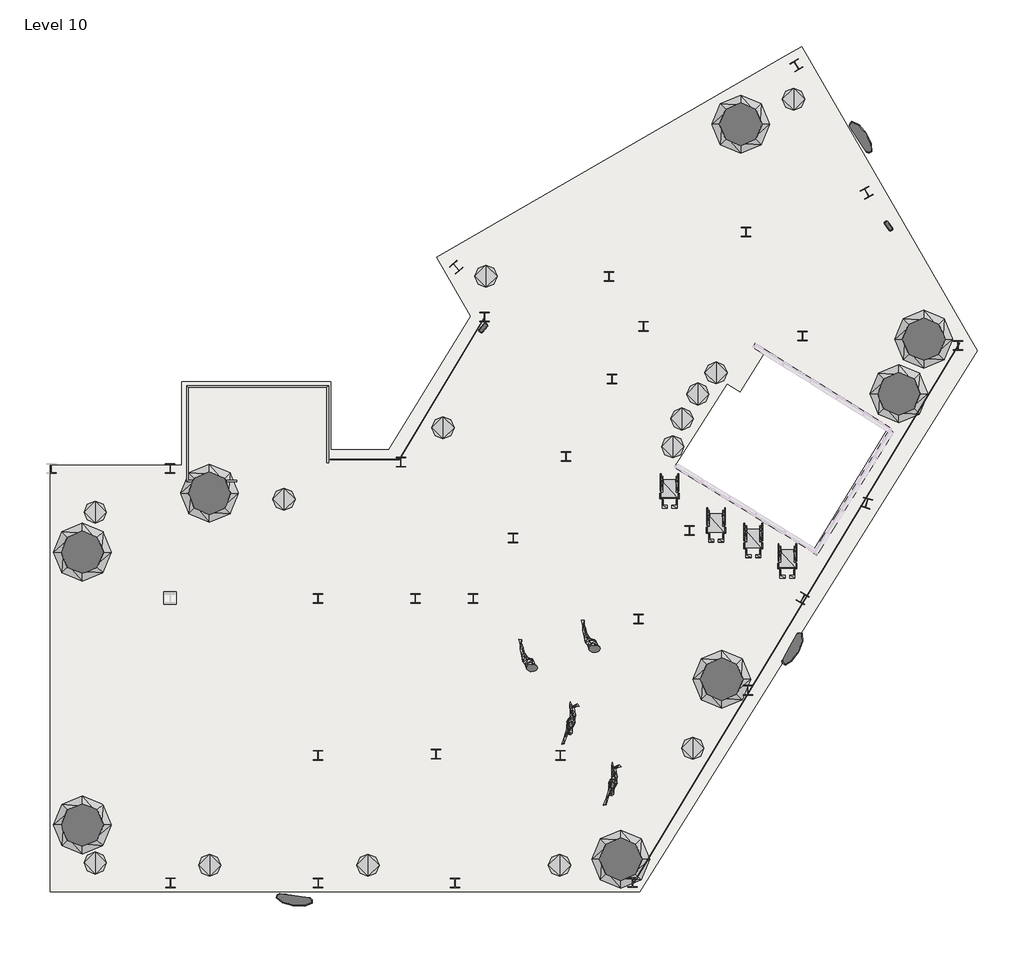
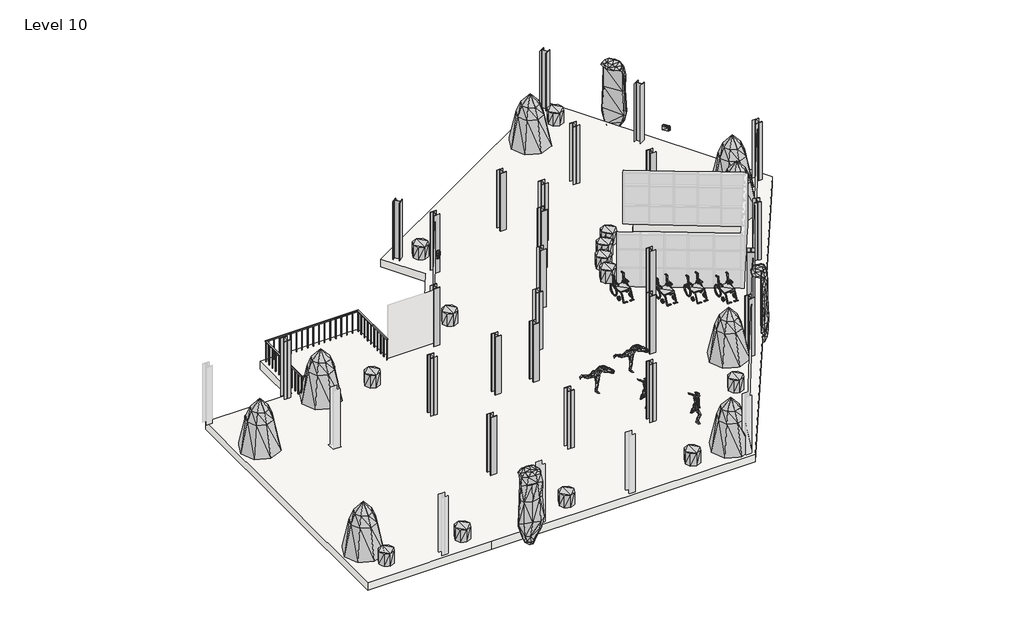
# One storey, part 3 of 3: 35 geographic elements, 25 columns, 1 railing, 1 slab.
"""IFC4 building model written with IfcOpenShell, lengths in millimetres."""

from ifc_helpers import new_model, si_unit, frame, origin, place, context, project, spatial, polyline, outline, extrude, faceted_brep, transform, mapped, element, save
from components import uc_universal_columns_column_uc305x305x97_d4764252, geographic_element_3335acbb, geographic_element_f46679e8, geographic_element_4bf2e114, geographic_element_8761a16f, geographic_element_7d3aa87a, geographic_element_ef1eaf45, enscape_assetdefinition_first_aid_kit_enscape_9b5aa35b, enscape_assetdefinition_wheelchair_001_enscape_12e7553c

model = new_model("IFC4")

# Units and contexts
model_context = context("Model", 3, world=origin())
ifc_project = project(units=[si_unit("LENGTHUNIT", "METRE", prefix="MILLI")], contexts=[model_context])

# Site, building, storey
site = spatial("IfcSite", under=ifc_project)
building = spatial("IfcBuilding", under=site)
storey = spatial("IfcBuildingStorey", under=building, Name="Level 10", Elevation=15000.0)

# Columns
placement = place(None, origin())
uc_universal_columns_column_uc305x305x97_shape = uc_universal_columns_column_uc305x305x97_d4764252(model_context)
element("IfcColumn", 1, ObjectType="UC-Universal Columns-Column : UC305x305x97", at=placement, inside=storey, context=model_context, shape_type="MappedRepresentation", body=[
    mapped(uc_universal_columns_column_uc305x305x97_shape, transform((14825.9261037, 2236.1980782, 0.0), x_axis=(1.0, 0.0, 0.0), y_axis=(0.0, 1.0, 0.0), z_axis=(0.0, 0.0, 1.0))),
])
element("IfcColumn", 2, ObjectType="UC-Universal Columns-Column : UC305x305x97", at=placement, inside=storey, context=model_context, shape_type="MappedRepresentation", body=[
    mapped(uc_universal_columns_column_uc305x305x97_shape, transform((16593.3727635, 5198.0548037, 0.0), x_axis=(0.8628109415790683, -0.5055267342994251, 0.0), y_axis=(0.5055267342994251, 0.8628109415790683, 0.0), z_axis=(0.0, 0.0, 1.0))),
])
element("IfcColumn", 3, ObjectType="UC-Universal Columns-Column : UC305x305x97", at=placement, inside=storey, context=model_context, shape_type="MappedRepresentation", body=[
    mapped(uc_universal_columns_column_uc305x305x97_shape, transform((18659.7446761, 8273.1842534, 0.0), x_axis=(-0.9563047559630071, 0.2923717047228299, 0.0), y_axis=(-0.2923717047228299, -0.9563047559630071, 0.0), z_axis=(0.0, 0.0, 1.0))),
])
element("IfcColumn", 4, ObjectType="UC-Universal Columns-Column : UC305x305x97", at=placement, inside=storey, context=model_context, shape_type="MappedRepresentation", body=[
    mapped(uc_universal_columns_column_uc305x305x97_shape, transform((21604.3807164, 13355.5172145, 0.0), x_axis=(1.0, 0.0, 0.0), y_axis=(0.0, 1.0, 0.0), z_axis=(0.0, 0.0, 1.0))),
])
element("IfcColumn", 5, ObjectType="UC-Universal Columns-Column : UC305x305x97", at=placement, inside=storey, context=model_context, shape_type="MappedRepresentation", body=[
    mapped(uc_universal_columns_column_uc305x305x97_shape, transform((18659.7446761, 18282.664733, 0.0), x_axis=(0.8746197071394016, 0.4848096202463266, 0.0), y_axis=(-0.4848096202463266, 0.8746197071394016, 0.0), z_axis=(0.0, 0.0, 1.0))),
])
element("IfcColumn", 6, ObjectType="UC-Universal Columns-Column : UC305x305x97", at=placement, inside=storey, context=model_context, shape_type="MappedRepresentation", body=[
    mapped(uc_universal_columns_column_uc305x305x97_shape, transform((16393.6530446, 22387.6807818, 0.0), x_axis=(0.8588498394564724, 0.5122274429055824, 0.0), y_axis=(-0.5122274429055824, 0.8588498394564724, 0.0), z_axis=(0.0, 0.0, 1.0))),
])
element("IfcColumn", 7, ObjectType="UC-Universal Columns-Column : UC305x305x97", at=placement, inside=storey, context=model_context, shape_type="MappedRepresentation", body=[
    mapped(uc_universal_columns_column_uc305x305x97_shape, transform((4102.1086824, 5198.0548037, 0.0), x_axis=(1.0, 0.0, 0.0), y_axis=(0.0, 1.0, 0.0), z_axis=(0.0, 0.0, 1.0))),
])
element("IfcColumn", 8, ObjectType="UC-Universal Columns-Column : UC305x305x97", at=placement, inside=storey, context=model_context, shape_type="MappedRepresentation", body=[
    mapped(uc_universal_columns_column_uc305x305x97_shape, transform((4772.9401602, 172.7329161, 0.0), x_axis=(1.0, 0.0, 0.0), y_axis=(0.0, 1.0, 0.0), z_axis=(0.0, 0.0, 1.0))),
])
element("IfcColumn", 9, ObjectType="UC-Universal Columns-Column : UC305x305x97", at=placement, inside=storey, context=model_context, shape_type="MappedRepresentation", body=[
    mapped(uc_universal_columns_column_uc305x305x97_shape, transform((960.5515361, 138.0977869, 0.0), x_axis=(1.0, 0.0, 0.0), y_axis=(0.0, 1.0, 0.0), z_axis=(0.0, 0.0, 1.0))),
])
element("IfcColumn", 10, ObjectType="UC-Universal Columns-Column : UC305x305x97", at=placement, inside=storey, context=model_context, shape_type="MappedRepresentation", body=[
    mapped(uc_universal_columns_column_uc305x305x97_shape, transform((960.5515361, 5198.0548037, 0.0), x_axis=(1.0, 0.0, 0.0), y_axis=(0.0, 1.0, 0.0), z_axis=(0.0, 0.0, 1.0))),
])
element("IfcColumn", 11, ObjectType="UC-Universal Columns-Column : UC305x305x97", at=placement, inside=storey, context=model_context, shape_type="MappedRepresentation", body=[
    mapped(uc_universal_columns_column_uc305x305x97_shape, transform((5969.450925, 5198.0548037, 0.0), x_axis=(1.0, 0.0, 0.0), y_axis=(0.0, 1.0, 0.0), z_axis=(0.0, 0.0, 1.0))),
])
element("IfcColumn", 12, ObjectType="UC-Universal Columns-Column : UC305x305x97", at=placement, inside=storey, context=model_context, shape_type="MappedRepresentation", body=[
    mapped(uc_universal_columns_column_uc305x305x97_shape, transform((8777.8287843, 138.0977869, 0.0), x_axis=(1.0, 0.0, 0.0), y_axis=(0.0, 1.0, 0.0), z_axis=(0.0, 0.0, 1.0))),
])
element("IfcColumn", 13, ObjectType="UC-Universal Columns-Column : UC305x305x97", at=placement, inside=storey, context=model_context, shape_type="MappedRepresentation", body=[
    mapped(uc_universal_columns_column_uc305x305x97_shape, transform((11297.5973714, 4527.5215482, 0.0), x_axis=(1.0, 0.0, 0.0), y_axis=(0.0, 1.0, 0.0), z_axis=(0.0, 0.0, 1.0))),
])
element("IfcColumn", 14, ObjectType="UC-Universal Columns-Column : UC305x305x97", at=placement, inside=storey, context=model_context, shape_type="MappedRepresentation", body=[
    mapped(uc_universal_columns_column_uc305x305x97_shape, transform((7257.5922909, 7151.1315241, 0.0), x_axis=(1.0, 0.0, 0.0), y_axis=(0.0, 1.0, 0.0), z_axis=(0.0, 0.0, 1.0))),
])
element("IfcColumn", 15, ObjectType="UC-Universal Columns-Column : UC305x305x97", at=placement, inside=storey, context=model_context, shape_type="MappedRepresentation", body=[
    mapped(uc_universal_columns_column_uc305x305x97_shape, transform((8965.6235037, 9781.2689457, 0.0), x_axis=(1.0, 0.0, 0.0), y_axis=(0.0, 1.0, 0.0), z_axis=(0.0, 0.0, 1.0))),
])
element("IfcColumn", 16, ObjectType="UC-Universal Columns-Column : UC305x305x97", at=placement, inside=storey, context=model_context, shape_type="MappedRepresentation", body=[
    mapped(uc_universal_columns_column_uc305x305x97_shape, transform((12948.9914586, 7387.8200105, 0.0), x_axis=(1.0, 0.0, 0.0), y_axis=(0.0, 1.0, 0.0), z_axis=(0.0, 0.0, 1.0))),
])
element("IfcColumn", 17, ObjectType="UC-Universal Columns-Column : UC305x305x97", at=placement, inside=storey, context=model_context, shape_type="MappedRepresentation", body=[
    mapped(uc_universal_columns_column_uc305x305x97_shape, transform((10445.2752584, 12279.6486862, 0.0), x_axis=(1.0, 0.0, 0.0), y_axis=(0.0, 1.0, 0.0), z_axis=(0.0, 0.0, 1.0))),
])
element("IfcColumn", 18, ObjectType="UC-Universal Columns-Column : UC305x305x97", at=placement, inside=storey, context=model_context, shape_type="MappedRepresentation", body=[
    mapped(uc_universal_columns_column_uc305x305x97_shape, transform((16593.3727635, 13664.0127827, 0.0), x_axis=(1.0, 0.0, 0.0), y_axis=(0.0, 1.0, 0.0), z_axis=(0.0, 0.0, 1.0))),
])
element("IfcColumn", 19, ObjectType="UC-Universal Columns-Column : UC305x305x97", at=placement, inside=storey, context=model_context, shape_type="MappedRepresentation", body=[
    mapped(uc_universal_columns_column_uc305x305x97_shape, transform((11463.6077386, 13974.4385392, 0.0), x_axis=(1.0, 0.0, 0.0), y_axis=(0.0, 1.0, 0.0), z_axis=(0.0, 0.0, 1.0))),
])
element("IfcColumn", 20, ObjectType="UC-Universal Columns-Column : UC305x305x97", at=placement, inside=storey, context=model_context, shape_type="MappedRepresentation", body=[
    mapped(uc_universal_columns_column_uc305x305x97_shape, transform((14771.6273167, 17019.3388217, 0.0), x_axis=(1.0, 0.0, 0.0), y_axis=(0.0, 1.0, 0.0), z_axis=(0.0, 0.0, 1.0))),
])
element("IfcColumn", 21, ObjectType="UC-Universal Columns-Column : UC305x305x97", at=placement, inside=storey, context=model_context, shape_type="MappedRepresentation", body=[
    mapped(uc_universal_columns_column_uc305x305x97_shape, transform((10348.7917074, 15582.272419, 0.0), x_axis=(1.0, 0.0, 0.0), y_axis=(0.0, 1.0, 0.0), z_axis=(0.0, 0.0, 1.0))),
])
element("IfcColumn", 22, ObjectType="UC-Universal Columns-Column : UC305x305x97", at=placement, inside=storey, context=model_context, shape_type="MappedRepresentation", body=[
    mapped(uc_universal_columns_column_uc305x305x97_shape, transform((6337.5621324, 14278.944924, 0.0), x_axis=(1.0, 0.0, 0.0), y_axis=(0.0, 1.0, 0.0), z_axis=(0.0, 0.0, 1.0))),
])
element("IfcColumn", 23, ObjectType="UC-Universal Columns-Column : UC305x305x97", at=placement, inside=storey, context=model_context, shape_type="MappedRepresentation", body=[
    mapped(uc_universal_columns_column_uc305x305x97_shape, transform((5421.8201957, 15880.0564851, 0.0), x_axis=(0.7605099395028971, 0.6493262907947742, 0.0), y_axis=(-0.6493262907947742, 0.7605099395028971, 0.0), z_axis=(0.0, 0.0, 1.0))),
])
element("IfcColumn", 24, ObjectType="UC-Universal Columns-Column : UC305x305x97", at=placement, inside=storey, context=model_context, shape_type="MappedRepresentation", body=[
    mapped(uc_universal_columns_column_uc305x305x97_shape, transform((3633.3125017, 9590.0288254, 0.0), x_axis=(1.0, 0.0, 0.0), y_axis=(0.0, 1.0, 0.0), z_axis=(0.0, 0.0, 1.0))),
])
element("IfcColumn", 25, ObjectType="UC-Universal Columns-Column : UC305x305x97", at=placement, inside=storey, context=model_context, shape_type="MappedRepresentation", body=[
    mapped(uc_universal_columns_column_uc305x305x97_shape, transform((-3804.3842071, 9390.0288254, 0.0), x_axis=(1.0, 0.0, 0.0), y_axis=(0.0, 1.0, 0.0), z_axis=(0.0, 0.0, 1.0))),
])

# Geographic elements
geographic_element_shape = geographic_element_3335acbb(model_context)
element("IfcGeographicElement", 26, ObjectType="Enscape AssetDefinition - Bush 015 English Laurel : Enscape AssetDefinition - Bush 015 English Laurel", at=placement, inside=storey, context=model_context, shape_type="MappedRepresentation", body=[
    mapped(geographic_element_shape, transform((-6221.6874983, 7980.8556161, 15000.0), x_axis=(1.0, 0.0, 0.0), y_axis=(0.0, 1.0, 0.0), z_axis=(0.0, 0.0, 1.0))),
])
element("IfcGeographicElement", 27, ObjectType="Enscape AssetDefinition - Bush 015 English Laurel : Enscape AssetDefinition - Bush 015 English Laurel", at=placement, inside=storey, context=model_context, shape_type="MappedRepresentation", body=[
    mapped(geographic_element_shape, transform((-6221.6874983, -3334.9711746, 15000.0), x_axis=(1.0, 0.0, 0.0), y_axis=(0.0, 1.0, 0.0), z_axis=(0.0, 0.0, 1.0))),
])
element("IfcGeographicElement", 28, ObjectType="Enscape AssetDefinition - Bush 015 English Laurel : Enscape AssetDefinition - Bush 015 English Laurel", at=placement, inside=storey, context=model_context, shape_type="MappedRepresentation", body=[
    mapped(geographic_element_shape, transform((-2531.9484639, -3409.9711746, 15000.0), x_axis=(1.0, 0.0, 0.0), y_axis=(0.0, 1.0, 0.0), z_axis=(0.0, 0.0, 1.0))),
])
element("IfcGeographicElement", 29, ObjectType="Enscape AssetDefinition - Bush 015 English Laurel : Enscape AssetDefinition - Bush 015 English Laurel", at=placement, inside=storey, context=model_context, shape_type="MappedRepresentation", body=[
    mapped(geographic_element_shape, transform((2575.5515361, -3409.9711746, 15000.0), x_axis=(1.0, 0.0, 0.0), y_axis=(0.0, 1.0, 0.0), z_axis=(0.0, 0.0, 1.0))),
])
element("IfcGeographicElement", 30, ObjectType="Enscape AssetDefinition - Bush 015 English Laurel : Enscape AssetDefinition - Bush 015 English Laurel", at=placement, inside=storey, context=model_context, shape_type="MappedRepresentation", body=[
    mapped(geographic_element_shape, transform((8753.3125017, -3409.9711746, 15000.0), x_axis=(1.0, 0.0, 0.0), y_axis=(0.0, 1.0, 0.0), z_axis=(0.0, 0.0, 1.0))),
])
element("IfcGeographicElement", 31, ObjectType="Enscape AssetDefinition - Bush 015 English Laurel : Enscape AssetDefinition - Bush 015 English Laurel", at=placement, inside=storey, context=model_context, shape_type="MappedRepresentation", body=[
    mapped(geographic_element_shape, transform((13052.898275, 364.0884823, 15000.0), x_axis=(1.0, 0.0, 0.0), y_axis=(0.0, 1.0, 0.0), z_axis=(0.0, 0.0, 1.0))),
])
element("IfcGeographicElement", 32, ObjectType="Enscape AssetDefinition - Bush 015 English Laurel : Enscape AssetDefinition - Bush 015 English Laurel", at=placement, inside=storey, context=model_context, shape_type="MappedRepresentation", body=[
    mapped(geographic_element_shape, transform((-136.3598666, 8395.8274352, 15000.0), x_axis=(1.0, 0.0, 0.0), y_axis=(0.0, 1.0, 0.0), z_axis=(0.0, 0.0, 1.0))),
])
element("IfcGeographicElement", 33, ObjectType="Enscape AssetDefinition - Bush 015 English Laurel : Enscape AssetDefinition - Bush 015 English Laurel", at=placement, inside=storey, context=model_context, shape_type="MappedRepresentation", body=[
    mapped(geographic_element_shape, transform((4993.3125017, 10702.8171083, 15000.0), x_axis=(1.0, 0.0, 0.0), y_axis=(0.0, 1.0, 0.0), z_axis=(0.0, 0.0, 1.0))),
])
element("IfcGeographicElement", 34, ObjectType="Enscape AssetDefinition - Bush 015 English Laurel : Enscape AssetDefinition - Bush 015 English Laurel", at=placement, inside=storey, context=model_context, shape_type="MappedRepresentation", body=[
    mapped(geographic_element_shape, transform((6378.4832243, 15588.0675137, 15000.0), x_axis=(1.0, 0.0, 0.0), y_axis=(0.0, 1.0, 0.0), z_axis=(0.0, 0.0, 1.0))),
])
element("IfcGeographicElement", 35, ObjectType="Enscape AssetDefinition - Bush 015 English Laurel : Enscape AssetDefinition - Bush 015 English Laurel", at=placement, inside=storey, context=model_context, shape_type="MappedRepresentation", body=[
    mapped(geographic_element_shape, transform((16301.9425222, 21300.131823, 15000.0), x_axis=(1.0, 0.0, 0.0), y_axis=(0.0, 1.0, 0.0), z_axis=(0.0, 0.0, 1.0))),
])
element("IfcGeographicElement", 36, ObjectType="Enscape AssetDefinition - Bush 015 English Laurel : Enscape AssetDefinition - Bush 015 English Laurel", at=placement, inside=storey, context=model_context, shape_type="MappedRepresentation", body=[
    mapped(geographic_element_shape, transform((12401.9425222, 10090.0288254, 15000.0), x_axis=(1.0, 0.0, 0.0), y_axis=(0.0, 1.0, 0.0), z_axis=(0.0, 0.0, 1.0))),
])
element("IfcGeographicElement", 37, ObjectType="Enscape AssetDefinition - Bush 015 English Laurel : Enscape AssetDefinition - Bush 015 English Laurel", at=placement, inside=storey, context=model_context, shape_type="MappedRepresentation", body=[
    mapped(geographic_element_shape, transform((12701.9425222, 10987.7410959, 15000.0), x_axis=(1.0, 0.0, 0.0), y_axis=(0.0, 1.0, 0.0), z_axis=(0.0, 0.0, 1.0))),
])
element("IfcGeographicElement", 38, ObjectType="Enscape AssetDefinition - Bush 015 English Laurel : Enscape AssetDefinition - Bush 015 English Laurel", at=placement, inside=storey, context=model_context, shape_type="MappedRepresentation", body=[
    mapped(geographic_element_shape, transform((13214.914214, 11790.0288254, 15000.0), x_axis=(1.0, 0.0, 0.0), y_axis=(0.0, 1.0, 0.0), z_axis=(0.0, 0.0, 1.0))),
])
element("IfcGeographicElement", 39, ObjectType="Enscape AssetDefinition - Bush 015 English Laurel : Enscape AssetDefinition - Bush 015 English Laurel", at=placement, inside=storey, context=model_context, shape_type="MappedRepresentation", body=[
    mapped(geographic_element_shape, transform((13801.9425222, 12472.2515754, 15000.0), x_axis=(1.0, 0.0, 0.0), y_axis=(0.0, 1.0, 0.0), z_axis=(0.0, 0.0, 1.0))),
])
geographic_element_2_shape = geographic_element_f46679e8(model_context)
element("IfcGeographicElement", 40, ObjectType="Enscape AssetDefinition - Creeper Plant 021 Bower Vine : Enscape AssetDefinition - Creeper Plant 021 Bower Vine", at=placement, inside=storey, context=model_context, shape_type="MappedRepresentation", body=[
    mapped(geographic_element_2_shape, transform((16174.5718831, 3629.7419882, 18000.0), x_axis=(0.4831824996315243, 0.8755196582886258, 0.0), y_axis=(-0.8755196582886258, 0.4831824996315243, 0.0), z_axis=(0.0, 0.0, 1.0))),
])
element("IfcGeographicElement", 41, ObjectType="Enscape AssetDefinition - Creeper Plant 021 Bower Vine : Enscape AssetDefinition - Creeper Plant 021 Bower Vine", at=placement, inside=storey, context=model_context, shape_type="MappedRepresentation", body=[
    mapped(geographic_element_2_shape, transform((18380.6080366, 20011.676312, 18000.0), x_axis=(-0.5414431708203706, 0.8407373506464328, 0.0), y_axis=(-0.8407373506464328, -0.5414431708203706, 0.0), z_axis=(0.0, 0.0, 1.0))),
])
geographic_element_3_shape = geographic_element_4bf2e114(model_context)
element("IfcGeographicElement", 42, ObjectType="Enscape AssetDefinition - Creeper Plant 021 Bower Vine : Enscape AssetDefinition - Creeper Plant 021 Bower Vine", at=placement, inside=storey, context=model_context, shape_type="MappedRepresentation", body=[
    mapped(geographic_element_3_shape, transform((216.2118293, -4397.4394823, 18000.0), x_axis=(-0.990339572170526, 0.13866337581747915, 0.0), y_axis=(-0.13866337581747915, -0.990339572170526, 0.0), z_axis=(0.0, 0.0, 1.0))),
])
geographic_element_4_shape = geographic_element_8761a16f(model_context)
element("IfcGeographicElement", 43, ObjectType="Enscape AssetDefinition - Juliette 002 Working Out : Enscape AssetDefinition - Juliette 002 Working Out", at=placement, inside=storey, context=model_context, shape_type="MappedRepresentation", body=[
    mapped(geographic_element_4_shape, transform((10501.9425222, -734.4451963, 15000.0), x_axis=(1.0, 0.0, 0.0), y_axis=(0.0, 1.0, 0.0), z_axis=(0.0, 0.0, 1.0))),
])
element("IfcGeographicElement", 44, ObjectType="Enscape AssetDefinition - Juliette 002 Working Out : Enscape AssetDefinition - Juliette 002 Working Out", at=placement, inside=storey, context=model_context, shape_type="MappedRepresentation", body=[
    mapped(geographic_element_4_shape, transform((9153.3125017, 1230.2323888, 15000.0), x_axis=(1.0, 0.0, 0.0), y_axis=(0.0, 1.0, 0.0), z_axis=(0.0, 0.0, 1.0))),
])
geographic_element_5_shape = geographic_element_7d3aa87a(model_context)
element("IfcGeographicElement", 45, ObjectType="Enscape AssetDefinition - Terrell 002 Jumping : Enscape AssetDefinition - Terrell 002 Jumping", at=placement, inside=storey, context=model_context, shape_type="MappedRepresentation", body=[
    mapped(geographic_element_5_shape, transform((9753.3125017, 3605.5548037, 15000.0), x_axis=(1.0, 0.0, 0.0), y_axis=(0.0, 1.0, 0.0), z_axis=(0.0, 0.0, 1.0))),
])
element("IfcGeographicElement", 46, ObjectType="Enscape AssetDefinition - Terrell 002 Jumping : Enscape AssetDefinition - Terrell 002 Jumping", at=placement, inside=storey, context=model_context, shape_type="MappedRepresentation", body=[
    mapped(geographic_element_5_shape, transform((7733.3125017, 2990.0288254, 15000.0), x_axis=(1.0, 0.0, 0.0), y_axis=(0.0, 1.0, 0.0), z_axis=(0.0, 0.0, 1.0))),
])
geographic_element_6_shape = geographic_element_ef1eaf45(model_context)
element("IfcGeographicElement", 47, ObjectType="Enscape AssetDefinition - Evergreen Tree 018 English Laurel : Enscape AssetDefinition - Evergreen Tree 018 English Laurel", at=placement, inside=storey, context=model_context, shape_type="MappedRepresentation", body=[
    mapped(geographic_element_6_shape, transform((20503.6990249, 13559.7043394, 15000.0), x_axis=(1.0, 0.0, 0.0), y_axis=(0.0, 1.0, 0.0), z_axis=(0.0, 0.0, 1.0))),
])
element("IfcGeographicElement", 48, ObjectType="Enscape AssetDefinition - Evergreen Tree 018 English Laurel : Enscape AssetDefinition - Evergreen Tree 018 English Laurel", at=placement, inside=storey, context=model_context, shape_type="MappedRepresentation", body=[
    mapped(geographic_element_6_shape, transform((19703.6990249, 11801.4322483, 15000.0), x_axis=(1.0, 0.0, 0.0), y_axis=(0.0, 1.0, 0.0), z_axis=(0.0, 0.0, 1.0))),
])
element("IfcGeographicElement", 49, ObjectType="Enscape AssetDefinition - Evergreen Tree 018 English Laurel : Enscape AssetDefinition - Evergreen Tree 018 English Laurel", at=placement, inside=storey, context=model_context, shape_type="MappedRepresentation", body=[
    mapped(geographic_element_6_shape, transform((13991.6879512, 2590.0288254, 15000.0), x_axis=(1.0, 0.0, 0.0), y_axis=(0.0, 1.0, 0.0), z_axis=(0.0, 0.0, 1.0))),
])
element("IfcGeographicElement", 50, ObjectType="Enscape AssetDefinition - Evergreen Tree 018 English Laurel : Enscape AssetDefinition - Evergreen Tree 018 English Laurel", at=placement, inside=storey, context=model_context, shape_type="MappedRepresentation", body=[
    mapped(geographic_element_6_shape, transform((14601.9425222, 20490.0288254, 15000.0), x_axis=(1.0, 0.0, 0.0), y_axis=(0.0, 1.0, 0.0), z_axis=(0.0, 0.0, 1.0))),
])
element("IfcGeographicElement", 51, ObjectType="Enscape AssetDefinition - Evergreen Tree 018 English Laurel : Enscape AssetDefinition - Evergreen Tree 018 English Laurel", at=placement, inside=storey, context=model_context, shape_type="MappedRepresentation", body=[
    mapped(geographic_element_6_shape, transform((10734.4701637, -3215.6119437, 15000.0), x_axis=(1.0, 0.0, 0.0), y_axis=(0.0, 1.0, 0.0), z_axis=(0.0, 0.0, 1.0))),
])
element("IfcGeographicElement", 52, ObjectType="Enscape AssetDefinition - Evergreen Tree 018 English Laurel : Enscape AssetDefinition - Evergreen Tree 018 English Laurel", at=placement, inside=storey, context=model_context, shape_type="MappedRepresentation", body=[
    mapped(geographic_element_6_shape, transform((-6631.9484639, -2109.9711746, 15000.0), x_axis=(1.0, 0.0, 0.0), y_axis=(0.0, 1.0, 0.0), z_axis=(0.0, 0.0, 1.0))),
])
element("IfcGeographicElement", 53, ObjectType="Enscape AssetDefinition - Evergreen Tree 018 English Laurel : Enscape AssetDefinition - Evergreen Tree 018 English Laurel", at=placement, inside=storey, context=model_context, shape_type="MappedRepresentation", body=[
    mapped(geographic_element_6_shape, transform((-6631.9484639, 6690.0288254, 15000.0), x_axis=(1.0, 0.0, 0.0), y_axis=(0.0, 1.0, 0.0), z_axis=(0.0, 0.0, 1.0))),
])
element("IfcGeographicElement", 54, ObjectType="Enscape AssetDefinition - Evergreen Tree 018 English Laurel : Enscape AssetDefinition - Evergreen Tree 018 English Laurel", at=placement, inside=storey, context=model_context, shape_type="MappedRepresentation", body=[
    mapped(geographic_element_6_shape, transform((-2531.9484639, 8590.0288254, 15000.0), x_axis=(1.0, 0.0, 0.0), y_axis=(0.0, 1.0, 0.0), z_axis=(0.0, 0.0, 1.0))),
])
enscape_assetdefinition_first_aid_kit_enscape_shape = enscape_assetdefinition_first_aid_kit_enscape_9b5aa35b(model_context)
element("IfcGeographicElement", 55, ObjectType="Enscape AssetDefinition - First Aid Kit : Enscape AssetDefinition - First Aid Kit", at=placement, inside=storey, context=model_context, shape_type="MappedRepresentation", body=[
    mapped(enscape_assetdefinition_first_aid_kit_enscape_shape, transform((19373.3138648, 17199.9887025, 16000.0), x_axis=(-0.5735764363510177, 0.8191520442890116, 0.0), y_axis=(-0.8191520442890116, -0.5735764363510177, 0.0), z_axis=(0.0, 0.0, 1.0))),
])
element("IfcGeographicElement", 56, ObjectType="Enscape AssetDefinition - First Aid Kit : Enscape AssetDefinition - First Aid Kit", at=placement, inside=storey, context=model_context, shape_type="MappedRepresentation", body=[
    mapped(enscape_assetdefinition_first_aid_kit_enscape_shape, transform((6282.1187983, 13909.6442469, 16000.0), x_axis=(0.6293203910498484, 0.777145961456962, 0.0), y_axis=(-0.777145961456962, 0.6293203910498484, 0.0), z_axis=(0.0, 0.0, 1.0))),
])
enscape_assetdefinition_wheelchair_001_enscape_shape = enscape_assetdefinition_wheelchair_001_enscape_12e7553c(model_context)
element("IfcGeographicElement", 57, ObjectType="Enscape AssetDefinition - Wheelchair 001 : Enscape AssetDefinition - Wheelchair 001", at=placement, inside=storey, context=model_context, shape_type="MappedRepresentation", body=[
    mapped(enscape_assetdefinition_wheelchair_001_enscape_shape, transform((13801.9425222, 7590.0288254, 15000.0), x_axis=(1.0, 0.0, 0.0), y_axis=(0.0, 1.0, 0.0), z_axis=(0.0, 0.0, 1.0))),
])
element("IfcGeographicElement", 58, ObjectType="Enscape AssetDefinition - Wheelchair 001 : Enscape AssetDefinition - Wheelchair 001", at=placement, inside=storey, context=model_context, shape_type="MappedRepresentation", body=[
    mapped(enscape_assetdefinition_wheelchair_001_enscape_shape, transform((15001.9425222, 7090.0288254, 15000.0), x_axis=(1.0, 0.0, 0.0), y_axis=(0.0, 1.0, 0.0), z_axis=(0.0, 0.0, 1.0))),
])
element("IfcGeographicElement", 59, ObjectType="Enscape AssetDefinition - Wheelchair 001 : Enscape AssetDefinition - Wheelchair 001", at=placement, inside=storey, context=model_context, shape_type="MappedRepresentation", body=[
    mapped(enscape_assetdefinition_wheelchair_001_enscape_shape, transform((12301.9425222, 8690.0288254, 15000.0), x_axis=(1.0, 0.0, 0.0), y_axis=(0.0, 1.0, 0.0), z_axis=(0.0, 0.0, 1.0))),
])
element("IfcGeographicElement", 60, ObjectType="Enscape AssetDefinition - Wheelchair 001 : Enscape AssetDefinition - Wheelchair 001", at=placement, inside=storey, context=model_context, shape_type="MappedRepresentation", body=[
    mapped(enscape_assetdefinition_wheelchair_001_enscape_shape, transform((16103.6990249, 6432.6724107, 15000.0), x_axis=(1.0, 0.0, 0.0), y_axis=(0.0, 1.0, 0.0), z_axis=(0.0, 0.0, 1.0))),
])

# Railing
element("IfcRailing", 61, ObjectType="1100mm", at=placement, inside=storey, context=model_context, shape_type="SolidModel", body=[
    faceted_brep([(1252.5101665, 9579.4874558, 16100.0), (1252.5101665, 9579.4874558, 16050.0), (1302.5101665, 9579.4874558, 16050.0), (1302.5101665, 9579.4874558, 16100.0), (1252.5101665, 12014.4874558, 16100.0), (1252.5101665, 12014.4874558, 16050.0), (1302.5101665, 12064.4874558, 16050.0), (1302.5101665, 12064.4874558, 16100.0), (-3217.4898335, 12014.4874558, 16100.0), (-3217.4898335, 12014.4874558, 16050.0), (-3267.4898335, 12064.4874558, 16050.0), (-3267.4898335, 12064.4874558, 16100.0), (-3217.4898335, 9004.4874558, 16100.0), (-3217.4898335, 9004.4874558, 16050.0), (-3267.4898335, 8954.4874558, 16050.0), (-3267.4898335, 8954.4874558, 16100.0), (-1662.9898335, 9004.4874558, 16100.0), (-1662.9898335, 8954.4874558, 16100.0), (-1662.9898335, 8954.4874558, 16050.0), (-1662.9898335, 9004.4874558, 16050.0)], [[[0, 1, 2, 3]], [[1, 0, 4, 5]], [[2, 1, 5, 6]], [[3, 2, 6, 7]], [[0, 3, 7, 4]], [[5, 4, 8, 9]], [[6, 5, 9, 10]], [[7, 6, 10, 11]], [[4, 7, 11, 8]], [[9, 8, 12, 13]], [[10, 9, 13, 14]], [[11, 10, 14, 15]], [[8, 11, 15, 12]], [[16, 17, 18, 19]], [[13, 12, 16, 19]], [[14, 13, 19, 18]], [[15, 14, 18, 17]], [[12, 15, 17, 16]]]),
    extrude(outline(polyline([(-1879.9898335, 8966.9874558), (-1879.9898335, 8991.9874558), (-1854.9898335, 8991.9874558), (-1854.9898335, 8966.9874558), (-1879.9898335, 8966.9874558)])), frame((0.0, 0.0, 15000.0), z_axis=(0.0, 0.0, 1.0), x_axis=(1.0, 0.0, 0.0)), (0.0, 0.0, 1.0), 1050.0),
    extrude(outline(polyline([(-2154.9898335, 8966.9874558), (-2154.9898335, 8991.9874558), (-2129.9898335, 8991.9874558), (-2129.9898335, 8966.9874558), (-2154.9898335, 8966.9874558)])), frame((0.0, 0.0, 15000.0), z_axis=(0.0, 0.0, 1.0), x_axis=(1.0, 0.0, 0.0)), (0.0, 0.0, 1.0), 1050.0),
    extrude(outline(polyline([(-2429.9898335, 8966.9874558), (-2429.9898335, 8991.9874558), (-2404.9898335, 8991.9874558), (-2404.9898335, 8966.9874558), (-2429.9898335, 8966.9874558)])), frame((0.0, 0.0, 15000.0), z_axis=(0.0, 0.0, 1.0), x_axis=(1.0, 0.0, 0.0)), (0.0, 0.0, 1.0), 1050.0),
    extrude(outline(polyline([(-2704.9898335, 8966.9874558), (-2704.9898335, 8991.9874558), (-2679.9898335, 8991.9874558), (-2679.9898335, 8966.9874558), (-2704.9898335, 8966.9874558)])), frame((0.0, 0.0, 15000.0), z_axis=(0.0, 0.0, 1.0), x_axis=(1.0, 0.0, 0.0)), (0.0, 0.0, 1.0), 1050.0),
    extrude(outline(polyline([(-2979.9898335, 8966.9874558), (-2979.9898335, 8991.9874558), (-2954.9898335, 8991.9874558), (-2954.9898335, 8966.9874558), (-2979.9898335, 8966.9874558)])), frame((0.0, 0.0, 15000.0), z_axis=(0.0, 0.0, 1.0), x_axis=(1.0, 0.0, 0.0)), (0.0, 0.0, 1.0), 1050.0),
    extrude(outline(polyline([(-3254.9898335, 9026.9874558), (-3229.9898335, 9026.9874558), (-3229.9898335, 9001.9874558), (-3254.9898335, 9001.9874558), (-3254.9898335, 9026.9874558)])), frame((0.0, 0.0, 15000.0), z_axis=(0.0, 0.0, 1.0), x_axis=(1.0, 0.0, 0.0)), (0.0, 0.0, 1.0), 1050.0),
    extrude(outline(polyline([(-3254.9898335, 9301.9874558), (-3229.9898335, 9301.9874558), (-3229.9898335, 9276.9874558), (-3254.9898335, 9276.9874558), (-3254.9898335, 9301.9874558)])), frame((0.0, 0.0, 15000.0), z_axis=(0.0, 0.0, 1.0), x_axis=(1.0, 0.0, 0.0)), (0.0, 0.0, 1.0), 1050.0),
    extrude(outline(polyline([(-3254.9898335, 9576.9874558), (-3229.9898335, 9576.9874558), (-3229.9898335, 9551.9874558), (-3254.9898335, 9551.9874558), (-3254.9898335, 9576.9874558)])), frame((0.0, 0.0, 15000.0), z_axis=(0.0, 0.0, 1.0), x_axis=(1.0, 0.0, 0.0)), (0.0, 0.0, 1.0), 1050.0),
    extrude(outline(polyline([(-3254.9898335, 9851.9874558), (-3229.9898335, 9851.9874558), (-3229.9898335, 9826.9874558), (-3254.9898335, 9826.9874558), (-3254.9898335, 9851.9874558)])), frame((0.0, 0.0, 15000.0), z_axis=(0.0, 0.0, 1.0), x_axis=(1.0, 0.0, 0.0)), (0.0, 0.0, 1.0), 1050.0),
    extrude(outline(polyline([(-3254.9898335, 10126.9874558), (-3229.9898335, 10126.9874558), (-3229.9898335, 10101.9874558), (-3254.9898335, 10101.9874558), (-3254.9898335, 10126.9874558)])), frame((0.0, 0.0, 15000.0), z_axis=(0.0, 0.0, 1.0), x_axis=(1.0, 0.0, 0.0)), (0.0, 0.0, 1.0), 1050.0),
    extrude(outline(polyline([(-3254.9898335, 10401.9874558), (-3229.9898335, 10401.9874558), (-3229.9898335, 10376.9874558), (-3254.9898335, 10376.9874558), (-3254.9898335, 10401.9874558)])), frame((0.0, 0.0, 15000.0), z_axis=(0.0, 0.0, 1.0), x_axis=(1.0, 0.0, 0.0)), (0.0, 0.0, 1.0), 1050.0),
    extrude(outline(polyline([(-3254.9898335, 10676.9874558), (-3229.9898335, 10676.9874558), (-3229.9898335, 10651.9874558), (-3254.9898335, 10651.9874558), (-3254.9898335, 10676.9874558)])), frame((0.0, 0.0, 15000.0), z_axis=(0.0, 0.0, 1.0), x_axis=(1.0, 0.0, 0.0)), (0.0, 0.0, 1.0), 1050.0),
    extrude(outline(polyline([(-3254.9898335, 10951.9874558), (-3229.9898335, 10951.9874558), (-3229.9898335, 10926.9874558), (-3254.9898335, 10926.9874558), (-3254.9898335, 10951.9874558)])), frame((0.0, 0.0, 15000.0), z_axis=(0.0, 0.0, 1.0), x_axis=(1.0, 0.0, 0.0)), (0.0, 0.0, 1.0), 1050.0),
    extrude(outline(polyline([(-3254.9898335, 11226.9874558), (-3229.9898335, 11226.9874558), (-3229.9898335, 11201.9874558), (-3254.9898335, 11201.9874558), (-3254.9898335, 11226.9874558)])), frame((0.0, 0.0, 15000.0), z_axis=(0.0, 0.0, 1.0), x_axis=(1.0, 0.0, 0.0)), (0.0, 0.0, 1.0), 1050.0),
    extrude(outline(polyline([(-3254.9898335, 11501.9874558), (-3229.9898335, 11501.9874558), (-3229.9898335, 11476.9874558), (-3254.9898335, 11476.9874558), (-3254.9898335, 11501.9874558)])), frame((0.0, 0.0, 15000.0), z_axis=(0.0, 0.0, 1.0), x_axis=(1.0, 0.0, 0.0)), (0.0, 0.0, 1.0), 1050.0),
    extrude(outline(polyline([(-3254.9898335, 11776.9874558), (-3229.9898335, 11776.9874558), (-3229.9898335, 11751.9874558), (-3254.9898335, 11751.9874558), (-3254.9898335, 11776.9874558)])), frame((0.0, 0.0, 15000.0), z_axis=(0.0, 0.0, 1.0), x_axis=(1.0, 0.0, 0.0)), (0.0, 0.0, 1.0), 1050.0),
    extrude(outline(polyline([(-3109.9898335, 12051.9874558), (-3109.9898335, 12026.9874558), (-3134.9898335, 12026.9874558), (-3134.9898335, 12051.9874558), (-3109.9898335, 12051.9874558)])), frame((0.0, 0.0, 15000.0), z_axis=(0.0, 0.0, 1.0), x_axis=(1.0, 0.0, 0.0)), (0.0, 0.0, 1.0), 1050.0),
    extrude(outline(polyline([(-2834.9898335, 12051.9874558), (-2834.9898335, 12026.9874558), (-2859.9898335, 12026.9874558), (-2859.9898335, 12051.9874558), (-2834.9898335, 12051.9874558)])), frame((0.0, 0.0, 15000.0), z_axis=(0.0, 0.0, 1.0), x_axis=(1.0, 0.0, 0.0)), (0.0, 0.0, 1.0), 1050.0),
    extrude(outline(polyline([(-2559.9898335, 12051.9874558), (-2559.9898335, 12026.9874558), (-2584.9898335, 12026.9874558), (-2584.9898335, 12051.9874558), (-2559.9898335, 12051.9874558)])), frame((0.0, 0.0, 15000.0), z_axis=(0.0, 0.0, 1.0), x_axis=(1.0, 0.0, 0.0)), (0.0, 0.0, 1.0), 1050.0),
    extrude(outline(polyline([(-2284.9898335, 12051.9874558), (-2284.9898335, 12026.9874558), (-2309.9898335, 12026.9874558), (-2309.9898335, 12051.9874558), (-2284.9898335, 12051.9874558)])), frame((0.0, 0.0, 15000.0), z_axis=(0.0, 0.0, 1.0), x_axis=(1.0, 0.0, 0.0)), (0.0, 0.0, 1.0), 1050.0),
    extrude(outline(polyline([(-2009.9898335, 12051.9874558), (-2009.9898335, 12026.9874558), (-2034.9898335, 12026.9874558), (-2034.9898335, 12051.9874558), (-2009.9898335, 12051.9874558)])), frame((0.0, 0.0, 15000.0), z_axis=(0.0, 0.0, 1.0), x_axis=(1.0, 0.0, 0.0)), (0.0, 0.0, 1.0), 1050.0),
    extrude(outline(polyline([(-1734.9898335, 12051.9874558), (-1734.9898335, 12026.9874558), (-1759.9898335, 12026.9874558), (-1759.9898335, 12051.9874558), (-1734.9898335, 12051.9874558)])), frame((0.0, 0.0, 15000.0), z_axis=(0.0, 0.0, 1.0), x_axis=(1.0, 0.0, 0.0)), (0.0, 0.0, 1.0), 1050.0),
    extrude(outline(polyline([(-1459.9898335, 12051.9874558), (-1459.9898335, 12026.9874558), (-1484.9898335, 12026.9874558), (-1484.9898335, 12051.9874558), (-1459.9898335, 12051.9874558)])), frame((0.0, 0.0, 15000.0), z_axis=(0.0, 0.0, 1.0), x_axis=(1.0, 0.0, 0.0)), (0.0, 0.0, 1.0), 1050.0),
    extrude(outline(polyline([(-1184.9898335, 12051.9874558), (-1184.9898335, 12026.9874558), (-1209.9898335, 12026.9874558), (-1209.9898335, 12051.9874558), (-1184.9898335, 12051.9874558)])), frame((0.0, 0.0, 15000.0), z_axis=(0.0, 0.0, 1.0), x_axis=(1.0, 0.0, 0.0)), (0.0, 0.0, 1.0), 1050.0),
    extrude(outline(polyline([(-909.9898335, 12051.9874558), (-909.9898335, 12026.9874558), (-934.9898335, 12026.9874558), (-934.9898335, 12051.9874558), (-909.9898335, 12051.9874558)])), frame((0.0, 0.0, 15000.0), z_axis=(0.0, 0.0, 1.0), x_axis=(1.0, 0.0, 0.0)), (0.0, 0.0, 1.0), 1050.0),
    extrude(outline(polyline([(-634.9898335, 12051.9874558), (-634.9898335, 12026.9874558), (-659.9898335, 12026.9874558), (-659.9898335, 12051.9874558), (-634.9898335, 12051.9874558)])), frame((0.0, 0.0, 15000.0), z_axis=(0.0, 0.0, 1.0), x_axis=(1.0, 0.0, 0.0)), (0.0, 0.0, 1.0), 1050.0),
    extrude(outline(polyline([(-359.9898335, 12051.9874558), (-359.9898335, 12026.9874558), (-384.9898335, 12026.9874558), (-384.9898335, 12051.9874558), (-359.9898335, 12051.9874558)])), frame((0.0, 0.0, 15000.0), z_axis=(0.0, 0.0, 1.0), x_axis=(1.0, 0.0, 0.0)), (0.0, 0.0, 1.0), 1050.0),
    extrude(outline(polyline([(-84.9898335, 12051.9874558), (-84.9898335, 12026.9874558), (-109.9898335, 12026.9874558), (-109.9898335, 12051.9874558), (-84.9898335, 12051.9874558)])), frame((0.0, 0.0, 15000.0), z_axis=(0.0, 0.0, 1.0), x_axis=(1.0, 0.0, 0.0)), (0.0, 0.0, 1.0), 1050.0),
    extrude(outline(polyline([(190.0101665, 12051.9874558), (190.0101665, 12026.9874558), (165.0101665, 12026.9874558), (165.0101665, 12051.9874558), (190.0101665, 12051.9874558)])), frame((0.0, 0.0, 15000.0), z_axis=(0.0, 0.0, 1.0), x_axis=(1.0, 0.0, 0.0)), (0.0, 0.0, 1.0), 1050.0),
    extrude(outline(polyline([(465.0101665, 12051.9874558), (465.0101665, 12026.9874558), (440.0101665, 12026.9874558), (440.0101665, 12051.9874558), (465.0101665, 12051.9874558)])), frame((0.0, 0.0, 15000.0), z_axis=(0.0, 0.0, 1.0), x_axis=(1.0, 0.0, 0.0)), (0.0, 0.0, 1.0), 1050.0),
    extrude(outline(polyline([(740.0101665, 12051.9874558), (740.0101665, 12026.9874558), (715.0101665, 12026.9874558), (715.0101665, 12051.9874558), (740.0101665, 12051.9874558)])), frame((0.0, 0.0, 15000.0), z_axis=(0.0, 0.0, 1.0), x_axis=(1.0, 0.0, 0.0)), (0.0, 0.0, 1.0), 1050.0),
    extrude(outline(polyline([(1015.0101665, 12051.9874558), (1015.0101665, 12026.9874558), (990.0101665, 12026.9874558), (990.0101665, 12051.9874558), (1015.0101665, 12051.9874558)])), frame((0.0, 0.0, 15000.0), z_axis=(0.0, 0.0, 1.0), x_axis=(1.0, 0.0, 0.0)), (0.0, 0.0, 1.0), 1050.0),
    extrude(outline(polyline([(1290.0101665, 11766.9874558), (1265.0101665, 11766.9874558), (1265.0101665, 11791.9874558), (1290.0101665, 11791.9874558), (1290.0101665, 11766.9874558)])), frame((0.0, 0.0, 15000.0), z_axis=(0.0, 0.0, 1.0), x_axis=(1.0, 0.0, 0.0)), (0.0, 0.0, 1.0), 1050.0),
    extrude(outline(polyline([(1290.0101665, 11491.9874558), (1265.0101665, 11491.9874558), (1265.0101665, 11516.9874558), (1290.0101665, 11516.9874558), (1290.0101665, 11491.9874558)])), frame((0.0, 0.0, 15000.0), z_axis=(0.0, 0.0, 1.0), x_axis=(1.0, 0.0, 0.0)), (0.0, 0.0, 1.0), 1050.0),
    extrude(outline(polyline([(1290.0101665, 11216.9874558), (1265.0101665, 11216.9874558), (1265.0101665, 11241.9874558), (1290.0101665, 11241.9874558), (1290.0101665, 11216.9874558)])), frame((0.0, 0.0, 15000.0), z_axis=(0.0, 0.0, 1.0), x_axis=(1.0, 0.0, 0.0)), (0.0, 0.0, 1.0), 1050.0),
    extrude(outline(polyline([(1290.0101665, 10941.9874558), (1265.0101665, 10941.9874558), (1265.0101665, 10966.9874558), (1290.0101665, 10966.9874558), (1290.0101665, 10941.9874558)])), frame((0.0, 0.0, 15000.0), z_axis=(0.0, 0.0, 1.0), x_axis=(1.0, 0.0, 0.0)), (0.0, 0.0, 1.0), 1050.0),
    extrude(outline(polyline([(1290.0101665, 10666.9874558), (1265.0101665, 10666.9874558), (1265.0101665, 10691.9874558), (1290.0101665, 10691.9874558), (1290.0101665, 10666.9874558)])), frame((0.0, 0.0, 15000.0), z_axis=(0.0, 0.0, 1.0), x_axis=(1.0, 0.0, 0.0)), (0.0, 0.0, 1.0), 1050.0),
    extrude(outline(polyline([(1290.0101665, 10391.9874558), (1265.0101665, 10391.9874558), (1265.0101665, 10416.9874558), (1290.0101665, 10416.9874558), (1290.0101665, 10391.9874558)])), frame((0.0, 0.0, 15000.0), z_axis=(0.0, 0.0, 1.0), x_axis=(1.0, 0.0, 0.0)), (0.0, 0.0, 1.0), 1050.0),
    extrude(outline(polyline([(1290.0101665, 10116.9874558), (1265.0101665, 10116.9874558), (1265.0101665, 10141.9874558), (1290.0101665, 10141.9874558), (1290.0101665, 10116.9874558)])), frame((0.0, 0.0, 15000.0), z_axis=(0.0, 0.0, 1.0), x_axis=(1.0, 0.0, 0.0)), (0.0, 0.0, 1.0), 1050.0),
    extrude(outline(polyline([(1290.0101665, 9841.9874558), (1265.0101665, 9841.9874558), (1265.0101665, 9866.9874558), (1290.0101665, 9866.9874558), (1290.0101665, 9841.9874558)])), frame((0.0, 0.0, 15000.0), z_axis=(0.0, 0.0, 1.0), x_axis=(1.0, 0.0, 0.0)), (0.0, 0.0, 1.0), 1050.0),
    extrude(outline(polyline([(-3254.9898335, 8991.9874558), (-3229.9898335, 8991.9874558), (-3229.9898335, 8966.9874558), (-3254.9898335, 8966.9874558), (-3254.9898335, 8991.9874558)])), frame((0.0, 0.0, 15000.0), z_axis=(0.0, 0.0, 1.0), x_axis=(1.0, 0.0, 0.0)), (0.0, 0.0, 1.0), 1050.0),
    extrude(outline(polyline([(-3229.9898335, 12051.9874558), (-3229.9898335, 12026.9874558), (-3254.9898335, 12026.9874558), (-3254.9898335, 12051.9874558), (-3229.9898335, 12051.9874558)])), frame((0.0, 0.0, 15000.0), z_axis=(0.0, 0.0, 1.0), x_axis=(1.0, 0.0, 0.0)), (0.0, 0.0, 1.0), 1050.0),
    extrude(outline(polyline([(1290.0101665, 12026.9874558), (1265.0101665, 12026.9874558), (1265.0101665, 12051.9874558), (1290.0101665, 12051.9874558), (1290.0101665, 12026.9874558)])), frame((0.0, 0.0, 15000.0), z_axis=(0.0, 0.0, 1.0), x_axis=(1.0, 0.0, 0.0)), (0.0, 0.0, 1.0), 1050.0),
    extrude(outline(polyline([(-1687.9898335, 8966.9874558), (-1687.9898335, 8991.9874558), (-1662.9898335, 8991.9874558), (-1662.9898335, 8966.9874558), (-1687.9898335, 8966.9874558)])), frame((0.0, 0.0, 15000.0), z_axis=(0.0, 0.0, 1.0), x_axis=(1.0, 0.0, 0.0)), (0.0, 0.0, 1.0), 1050.0),
    extrude(outline(polyline([(1290.0101665, 9579.4874558), (1265.0101665, 9579.4874558), (1265.0101665, 9604.4874558), (1290.0101665, 9604.4874558), (1290.0101665, 9579.4874558)])), frame((0.0, 0.0, 15000.0), z_axis=(0.0, 0.0, 1.0), x_axis=(1.0, 0.0, 0.0)), (0.0, 0.0, 1.0), 1050.0),
])

# Slab
element("IfcSlab", 62, ObjectType="Standard 2", at=placement, inside=storey, context=model_context, shape_type="SweptSolid", body=[
    extrude(outline(polyline([(868.0515361, 12190.0288254), (1368.0515361, 12190.0288254), (1368.0515361, 9990.0288254), (3252.2063583, 9990.0288254), (5885.6264516, 14291.720485), (4785.6264516, 16196.9763733), (16130.5592412, 22746.9763733), (16563.571943, 22996.9763733), (21940.2003964, 13684.3827187), (22232.0897468, 13178.8155336), (11332.9059935, -4263.5245652), (-1576.9484639, -4263.5245652), (-7676.9484639, -4263.5245652), (-7676.9484639, 9490.0288254), (-3431.9484639, 9490.0288254), (-3431.9484639, 12190.0288254), (868.0515361, 12190.0288254)]), holes=[polyline([(12494.5567916, 9491.3815911), (16934.319402, 6773.4368863), (19323.1495631, 10675.5908975), (15387.1968656, 13135.0471087), (14586.1232128, 11849.1636071), (14167.9085209, 12108.5037074), (12494.5567916, 9491.3815911)])]), frame((0.0, 0.0, 14600.0), z_axis=(0.0, 0.0, 1.0), x_axis=(1.0, 0.0, 0.0)), (0.0, 0.0, 1.0), 400.0),
])

save(model, "model.ifc")
